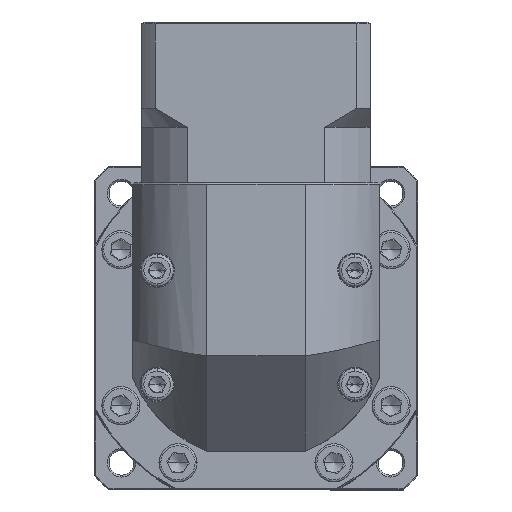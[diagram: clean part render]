
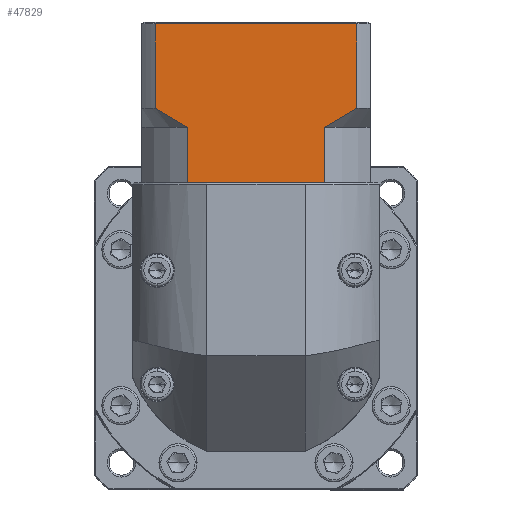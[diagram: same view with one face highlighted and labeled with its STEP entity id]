
A CAD part, top view. The second image highlights one B-rep face of the part: STEP entity #47829.
In plain terms, the highlighted planar face has unit normal (0, 0, 1).
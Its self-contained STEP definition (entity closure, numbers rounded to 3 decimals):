
#986 = VERTEX_POINT ( 'NONE', #114025 ) ;
#1053 = DIRECTION ( 'NONE',  ( 0., -1., 0. ) ) ;
#3176 = DIRECTION ( 'NONE',  ( 1., 0., 0. ) ) ;
#3729 = CARTESIAN_POINT ( 'NONE',  ( -63.964, 66.56, 36.845 ) ) ;
#3999 = VECTOR ( 'NONE', #127158, 1000. ) ;
#4071 = CARTESIAN_POINT ( 'NONE',  ( -111.992, 52.06, 36.845 ) ) ;
#6832 = ORIENTED_EDGE ( 'NONE', *, *, #96774, .T. ) ;
#7715 = VECTOR ( 'NONE', #135171, 1000. ) ;
#9114 = VERTEX_POINT ( 'NONE', #106543 ) ;
#10270 = CARTESIAN_POINT ( 'NONE',  ( -100.02, 52.06, 36.845 ) ) ;
#10597 = VERTEX_POINT ( 'NONE', #10270 ) ;
#11188 = VERTEX_POINT ( 'NONE', #132288 ) ;
#13477 = LINE ( 'NONE', #126701, #32050 ) ;
#13894 = CARTESIAN_POINT ( 'NONE',  ( -101.472, 67.308, 36.845 ) ) ;
#18017 = CARTESIAN_POINT ( 'NONE',  ( -64.955, 52.06, 36.845 ) ) ;
#18541 = EDGE_CURVE ( 'NONE', #59655, #9114, #114906, .T. ) ;
#19105 = LINE ( 'NONE', #29455, #3999 ) ;
#29455 = CARTESIAN_POINT ( 'NONE',  ( -111.992, 52.06, 36.845 ) ) ;
#30743 = B_SPLINE_CURVE_WITH_KNOTS ( 'NONE', 3,
 ( #3729, #67081, #89653, #121175, #88726, #122592 ),
 .UNSPECIFIED., .F., .F.,
 ( 4, 2, 4 ),
 ( 0.1, 0.104, 0.109 ),
 .UNSPECIFIED. ) ;
#32050 = VECTOR ( 'NONE', #137966, 1000. ) ;
#34651 = ORIENTED_EDGE ( 'NONE', *, *, #127210, .T. ) ;
#35274 = FACE_OUTER_BOUND ( 'NONE', #84136, .T. ) ;
#36647 = EDGE_CURVE ( 'NONE', #986, #9114, #30743, .T. ) ;
#36898 = DIRECTION ( 'NONE',  ( 0., 0., -1. ) ) ;
#41087 = VERTEX_POINT ( 'NONE', #84028 ) ;
#45203 = CARTESIAN_POINT ( 'NONE',  ( -108.45, 66.56, 36.845 ) ) ;
#45645 = CARTESIAN_POINT ( 'NONE',  ( -105.711, 69.788, 36.845 ) ) ;
#46470 = EDGE_CURVE ( 'NONE', #74932, #74897, #67468, .T. ) ;
#47829 = ADVANCED_FACE ( 'NONE', ( #35274 ), #80410, .F. ) ;
#48378 = LINE ( 'NONE', #99852, #92189 ) ;
#49667 = DIRECTION ( 'NONE',  ( 0., 1., 0. ) ) ;
#53100 = ORIENTED_EDGE ( 'NONE', *, *, #18541, .F. ) ;
#56371 = LINE ( 'NONE', #45203, #78286 ) ;
#57666 = VECTOR ( 'NONE', #101635, 1000. ) ;
#59655 = VERTEX_POINT ( 'NONE', #132014 ) ;
#59930 = ORIENTED_EDGE ( 'NONE', *, *, #130303, .F. ) ;
#64319 = LINE ( 'NONE', #108035, #114830 ) ;
#65550 = DIRECTION ( 'NONE',  ( 0., 1., 0. ) ) ;
#67081 = CARTESIAN_POINT ( 'NONE',  ( -62.508, 67.311, 36.845 ) ) ;
#67468 = B_SPLINE_CURVE_WITH_KNOTS ( 'NONE', 3,
 ( #81520, #111099, #45645, #78707, #13894, #89494 ),
 .UNSPECIFIED., .F., .F.,
 ( 4, 2, 4 ),
 ( 0.052, 0.057, 0.062 ),
 .UNSPECIFIED. ) ;
#70632 = CARTESIAN_POINT ( 'NONE',  ( -55.535, 66.56, 36.845 ) ) ;
#72550 = EDGE_CURVE ( 'NONE', #94541, #41087, #19105, .T. ) ;
#74897 = VERTEX_POINT ( 'NONE', #115708 ) ;
#74932 = VERTEX_POINT ( 'NONE', #108073 ) ;
#75396 = LINE ( 'NONE', #4071, #7715 ) ;
#76137 = LINE ( 'NONE', #100178, #119867 ) ;
#77967 = CARTESIAN_POINT ( 'NONE',  ( -99.029, 52.06, 36.845 ) ) ;
#78286 = VECTOR ( 'NONE', #65550, 1000. ) ;
#78707 = CARTESIAN_POINT ( 'NONE',  ( -102.903, 68.112, 36.845 ) ) ;
#80410 = PLANE ( 'NONE',  #95565 ) ;
#81520 = CARTESIAN_POINT ( 'NONE',  ( -108.45, 71.56, 36.845 ) ) ;
#81769 = CARTESIAN_POINT ( 'NONE',  ( -111.992, 94.26, 36.845 ) ) ;
#83492 = ORIENTED_EDGE ( 'NONE', *, *, #36647, .T. ) ;
#84028 = CARTESIAN_POINT ( 'NONE',  ( -63.964, 52.06, 36.845 ) ) ;
#84136 = EDGE_LOOP ( 'NONE', ( #53100, #34651, #85318, #104675, #59930, #122028, #6832, #85201, #90249, #83492 ) ) ;
#85201 = ORIENTED_EDGE ( 'NONE', *, *, #72550, .T. ) ;
#85318 = ORIENTED_EDGE ( 'NONE', *, *, #113720, .F. ) ;
#88726 = CARTESIAN_POINT ( 'NONE',  ( -56.897, 70.659, 36.845 ) ) ;
#88961 = DIRECTION ( 'NONE',  ( -1., 0., 0. ) ) ;
#89494 = CARTESIAN_POINT ( 'NONE',  ( -100.02, 66.56, 36.845 ) ) ;
#89653 = CARTESIAN_POINT ( 'NONE',  ( -61.082, 68.111, 36.845 ) ) ;
#90249 = ORIENTED_EDGE ( 'NONE', *, *, #120921, .F. ) ;
#92189 = VECTOR ( 'NONE', #3176, 1000. ) ;
#94541 = VERTEX_POINT ( 'NONE', #18017 ) ;
#95565 = AXIS2_PLACEMENT_3D ( 'NONE', #81769, #36898, #49667 ) ;
#96774 = EDGE_CURVE ( 'NONE', #138577, #94541, #48378, .T. ) ;
#99852 = CARTESIAN_POINT ( 'NONE',  ( -111.992, 52.06, 36.845 ) ) ;
#100178 = CARTESIAN_POINT ( 'NONE',  ( -111.992, 93.76, 36.845 ) ) ;
#101635 = DIRECTION ( 'NONE',  ( 0., -1., 0. ) ) ;
#104675 = ORIENTED_EDGE ( 'NONE', *, *, #46470, .T. ) ;
#106543 = CARTESIAN_POINT ( 'NONE',  ( -55.535, 71.56, 36.845 ) ) ;
#108035 = CARTESIAN_POINT ( 'NONE',  ( -63.964, 66.56, 36.845 ) ) ;
#108073 = CARTESIAN_POINT ( 'NONE',  ( -108.45, 71.56, 36.845 ) ) ;
#111099 = CARTESIAN_POINT ( 'NONE',  ( -107.09, 70.661, 36.845 ) ) ;
#113720 = EDGE_CURVE ( 'NONE', #74932, #11188, #56371, .T. ) ;
#114025 = CARTESIAN_POINT ( 'NONE',  ( -63.964, 66.56, 36.845 ) ) ;
#114830 = VECTOR ( 'NONE', #1053, 1000. ) ;
#114906 = LINE ( 'NONE', #70632, #57666 ) ;
#115708 = CARTESIAN_POINT ( 'NONE',  ( -100.02, 66.56, 36.845 ) ) ;
#119867 = VECTOR ( 'NONE', #88961, 1000. ) ;
#120921 = EDGE_CURVE ( 'NONE', #986, #41087, #64319, .T. ) ;
#121175 = CARTESIAN_POINT ( 'NONE',  ( -58.277, 69.785, 36.845 ) ) ;
#122028 = ORIENTED_EDGE ( 'NONE', *, *, #131413, .T. ) ;
#122592 = CARTESIAN_POINT ( 'NONE',  ( -55.535, 71.56, 36.845 ) ) ;
#126701 = CARTESIAN_POINT ( 'NONE',  ( -100.02, 66.56, 36.845 ) ) ;
#127158 = DIRECTION ( 'NONE',  ( 1., 0., 0. ) ) ;
#127210 = EDGE_CURVE ( 'NONE', #59655, #11188, #76137, .T. ) ;
#130303 = EDGE_CURVE ( 'NONE', #10597, #74897, #13477, .T. ) ;
#131413 = EDGE_CURVE ( 'NONE', #10597, #138577, #75396, .T. ) ;
#132014 = CARTESIAN_POINT ( 'NONE',  ( -55.535, 93.76, 36.845 ) ) ;
#132288 = CARTESIAN_POINT ( 'NONE',  ( -108.45, 93.76, 36.845 ) ) ;
#135171 = DIRECTION ( 'NONE',  ( 1., 0., 0. ) ) ;
#137966 = DIRECTION ( 'NONE',  ( 0., 1., 0. ) ) ;
#138577 = VERTEX_POINT ( 'NONE', #77967 ) ;
